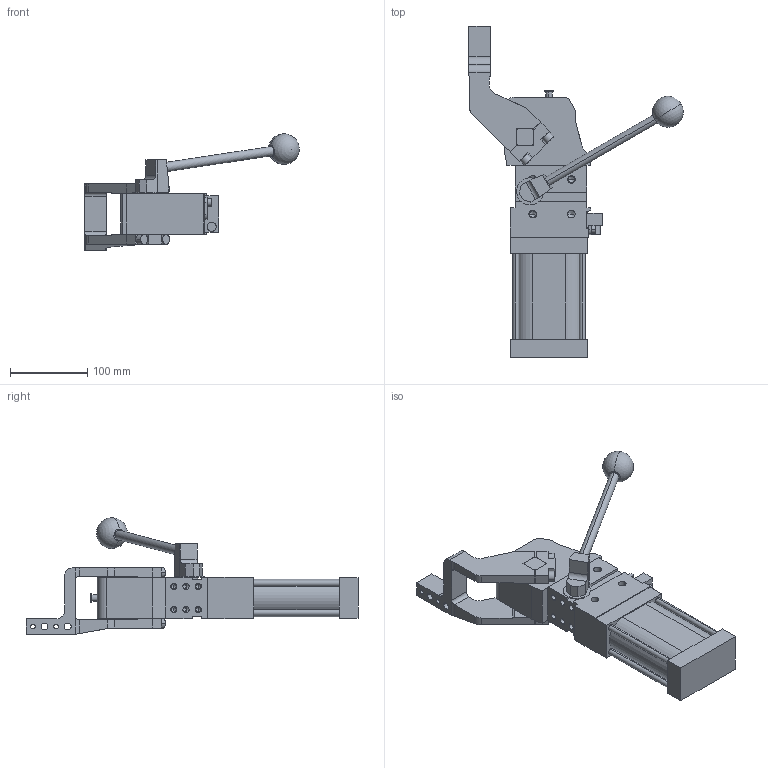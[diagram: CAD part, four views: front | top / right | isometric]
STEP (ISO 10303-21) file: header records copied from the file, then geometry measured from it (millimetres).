
FILE_DESCRIPTION (( 'STEP AP214' ), '1' );
FILE_NAME ('cplm63lah3di1g_107.STEP', '2023-01-26T15:01:44', ( '' ), ( '' ), 'SwSTEP 2.0', 'SolidWorks 2022', '' );
FILE_SCHEMA (( 'AUTOMOTIVE_DESIGN' ));
Length unit declared in the file: millimetre
Products named in the file (5): meccanica_cplm_63; blocchetto_VEP_0; leva_sx_offset_45_cpl63; comando_manuale_cplm_63; cplm63lah3di1g_107
Assembly tree (4 placements, depth 2):
  cplm63lah3di1g_107
    meccanica_cplm_63
    blocchetto_VEP_0
    leva_sx_offset_45_cpl63
    comando_manuale_cplm_63
Bounding box: 278.06 x 430.5 x 151 mm (x, y, z)
Volume: 1888099.3 mm3; surface area: 211431.7 mm2
Topology: 4 solids, 4 shells, 432 faces, 1134 edges, 703 vertices
Faces by surface type: plane 219, cylinder 161, cone 50, sphere 2
Entity records: 14577 total; most frequent: CARTESIAN_POINT 2322, DIRECTION 2302, ORIENTED_EDGE 2166, EDGE_CURVE 1083, AXIS2_PLACEMENT_3D 794, LINE 714, VECTOR 714, VERTEX_POINT 700
